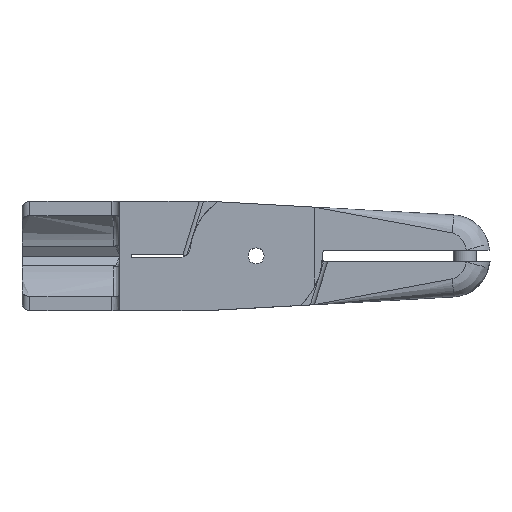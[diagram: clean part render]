
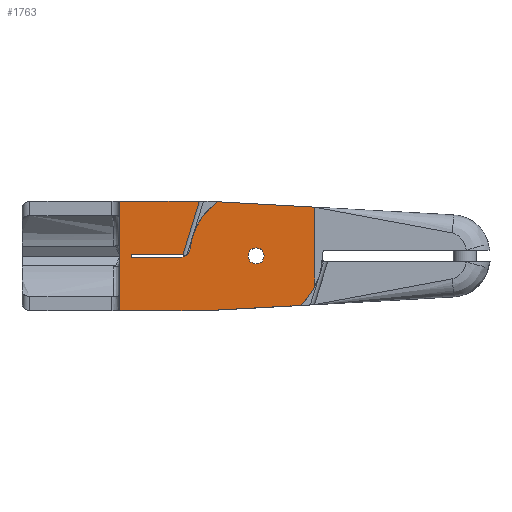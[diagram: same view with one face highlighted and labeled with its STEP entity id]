
A CAD part, top view. The second image highlights one B-rep face of the part: STEP entity #1763.
In plain terms, the highlighted planar face has unit normal (0, 0, 1).
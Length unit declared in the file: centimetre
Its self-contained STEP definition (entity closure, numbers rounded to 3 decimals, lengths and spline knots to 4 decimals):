
#19=FACE_BOUND('',#303,.T.);
#62=CIRCLE('',#1832,0.25);
#85=CIRCLE('',#1890,1.7);
#86=CIRCLE('',#1891,1.7);
#87=CIRCLE('',#1892,0.25);
#88=CIRCLE('',#1893,0.205);
#125=PLANE('',#1889);
#204=FACE_OUTER_BOUND('',#302,.T.);
#302=EDGE_LOOP('',(#1384,#1385,#1386,#1387,#1388,#1389,#1390,#1391,#1392,
#1393,#1394,#1395,#1396,#1397));
#303=EDGE_LOOP('',(#1398));
#376=LINE('',#3056,#515);
#383=LINE('',#3071,#522);
#408=LINE('',#3209,#547);
#445=LINE('',#4573,#584);
#446=LINE('',#4575,#585);
#447=LINE('',#4579,#586);
#448=LINE('',#4581,#587);
#449=LINE('',#4587,#588);
#450=LINE('',#4588,#589);
#451=LINE('',#4589,#590);
#515=VECTOR('',#2020,2.0458);
#522=VECTOR('',#2031,1.4314);
#547=VECTOR('',#2110,1.2613);
#584=VECTOR('',#2211,2.3);
#585=VECTOR('',#2212,2.333);
#586=VECTOR('',#2215,2.05);
#587=VECTOR('',#2216,2.4856);
#588=VECTOR('',#2221,1.2613);
#589=VECTOR('',#2222,0.08);
#590=VECTOR('',#2223,2.8);
#716=VERTEX_POINT('',#3053);
#717=VERTEX_POINT('',#3055);
#723=VERTEX_POINT('',#3070);
#725=VERTEX_POINT('',#3076);
#752=VERTEX_POINT('',#3208);
#799=VERTEX_POINT('',#4571);
#800=VERTEX_POINT('',#4572);
#801=VERTEX_POINT('',#4574);
#802=VERTEX_POINT('',#4576);
#803=VERTEX_POINT('',#4578);
#804=VERTEX_POINT('',#4580);
#805=VERTEX_POINT('',#4582);
#806=VERTEX_POINT('',#4584);
#807=VERTEX_POINT('',#4586);
#808=VERTEX_POINT('',#4590);
#891=EDGE_CURVE('',#717,#716,#376,.T.);
#899=EDGE_CURVE('',#723,#717,#383,.T.);
#902=EDGE_CURVE('',#723,#725,#62,.T.);
#943=EDGE_CURVE('',#725,#752,#408,.T.);
#1016=EDGE_CURVE('',#799,#800,#445,.T.);
#1017=EDGE_CURVE('',#800,#801,#446,.T.);
#1018=EDGE_CURVE('',#801,#802,#85,.T.);
#1019=EDGE_CURVE('',#802,#803,#447,.T.);
#1020=EDGE_CURVE('',#803,#804,#448,.T.);
#1021=EDGE_CURVE('',#804,#805,#86,.T.);
#1022=EDGE_CURVE('',#805,#806,#87,.T.);
#1023=EDGE_CURVE('',#806,#807,#449,.T.);
#1024=EDGE_CURVE('',#807,#752,#450,.T.);
#1025=EDGE_CURVE('',#716,#799,#451,.T.);
#1026=EDGE_CURVE('',#808,#808,#88,.T.);
#1384=ORIENTED_EDGE('',*,*,#1016,.T.);
#1385=ORIENTED_EDGE('',*,*,#1017,.T.);
#1386=ORIENTED_EDGE('',*,*,#1018,.T.);
#1387=ORIENTED_EDGE('',*,*,#1019,.T.);
#1388=ORIENTED_EDGE('',*,*,#1020,.T.);
#1389=ORIENTED_EDGE('',*,*,#1021,.T.);
#1390=ORIENTED_EDGE('',*,*,#1022,.T.);
#1391=ORIENTED_EDGE('',*,*,#1023,.T.);
#1392=ORIENTED_EDGE('',*,*,#1024,.T.);
#1393=ORIENTED_EDGE('',*,*,#943,.F.);
#1394=ORIENTED_EDGE('',*,*,#902,.F.);
#1395=ORIENTED_EDGE('',*,*,#899,.T.);
#1396=ORIENTED_EDGE('',*,*,#891,.T.);
#1397=ORIENTED_EDGE('',*,*,#1025,.T.);
#1398=ORIENTED_EDGE('',*,*,#1026,.T.);
#1763=ADVANCED_FACE('',(#204,#19),#125,.T.);
#1832=AXIS2_PLACEMENT_3D('',#3077,#2036,#2037);
#1889=AXIS2_PLACEMENT_3D('',#4570,#2209,#2210);
#1890=AXIS2_PLACEMENT_3D('',#4577,#2213,#2214);
#1891=AXIS2_PLACEMENT_3D('',#4583,#2217,#2218);
#1892=AXIS2_PLACEMENT_3D('',#4585,#2219,#2220);
#1893=AXIS2_PLACEMENT_3D('',#4591,#2224,#2225);
#2020=DIRECTION('',(-1.,0.,0.));
#2031=DIRECTION('',(0.292,0.956,0.));
#2036=DIRECTION('center_axis',(0.,0.,1.));
#2037=DIRECTION('ref_axis',(0.744,-0.668,0.));
#2110=DIRECTION('',(-1.,0.,0.));
#2209=DIRECTION('center_axis',(0.,0.,1.));
#2210=DIRECTION('ref_axis',(1.,0.,0.));
#2211=DIRECTION('',(1.,0.,0.));
#2212=DIRECTION('',(0.998,0.055,0.));
#2213=DIRECTION('center_axis',(0.,0.,1.));
#2214=DIRECTION('ref_axis',(-0.41,-0.912,0.));
#2215=DIRECTION('',(0.,1.,0.));
#2216=DIRECTION('',(-0.998,0.055,0.));
#2217=DIRECTION('center_axis',(0.,0.,1.));
#2218=DIRECTION('ref_axis',(0.507,0.862,0.));
#2219=DIRECTION('center_axis',(0.,0.,-1.));
#2220=DIRECTION('ref_axis',(0.744,0.668,0.));
#2221=DIRECTION('',(-1.,0.,0.));
#2222=DIRECTION('',(0.,1.,0.));
#2223=DIRECTION('',(0.,-1.,0.));
#2224=DIRECTION('center_axis',(0.,0.,-1.));
#2225=DIRECTION('ref_axis',(0.,1.,0.));
#3053=CARTESIAN_POINT('',(-3.5,1.4,0.));
#3055=CARTESIAN_POINT('',(-1.4542,1.4,0.));
#3056=CARTESIAN_POINT('',(-1.4542,1.4,0.));
#3070=CARTESIAN_POINT('',(-1.8727,0.0311,0.));
#3071=CARTESIAN_POINT('',(-1.8727,0.0311,0.));
#3076=CARTESIAN_POINT('',(-1.9387,0.04,0.));
#3077=CARTESIAN_POINT('Origin',(-1.9387,-0.21,0.));
#3208=CARTESIAN_POINT('',(-3.2,0.04,0.));
#3209=CARTESIAN_POINT('',(-1.9387,0.04,0.));
#4570=CARTESIAN_POINT('Origin',(-1.,-1.4,0.));
#4571=CARTESIAN_POINT('',(-3.5,-1.4,0.));
#4572=CARTESIAN_POINT('',(-1.2,-1.4,0.));
#4573=CARTESIAN_POINT('',(-3.5,-1.4,0.));
#4574=CARTESIAN_POINT('',(1.1294,-1.2706,0.));
#4575=CARTESIAN_POINT('',(-1.2,-1.4,0.));
#4576=CARTESIAN_POINT('',(1.5,-0.8,0.));
#4577=CARTESIAN_POINT('Origin',(0.,0.,0.));
#4578=CARTESIAN_POINT('',(1.5,1.25,0.));
#4579=CARTESIAN_POINT('',(1.5,-0.8,0.));
#4580=CARTESIAN_POINT('',(-0.9817,1.3879,0.));
#4581=CARTESIAN_POINT('',(1.5,1.25,0.));
#4582=CARTESIAN_POINT('',(-1.6901,0.1831,0.));
#4583=CARTESIAN_POINT('Origin',(0.,0.,0.));
#4584=CARTESIAN_POINT('',(-1.9387,-0.04,0.));
#4585=CARTESIAN_POINT('Origin',(-1.9387,0.21,0.));
#4586=CARTESIAN_POINT('',(-3.2,-0.04,0.));
#4587=CARTESIAN_POINT('',(-1.9387,-0.04,0.));
#4588=CARTESIAN_POINT('',(-3.2,0.,0.));
#4589=CARTESIAN_POINT('',(-3.5,0.,0.));
#4590=CARTESIAN_POINT('',(0.,-0.205,0.));
#4591=CARTESIAN_POINT('Origin',(0.,0.,0.));
